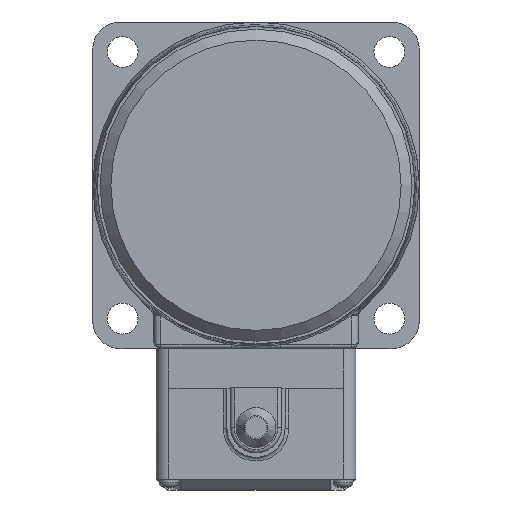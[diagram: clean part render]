
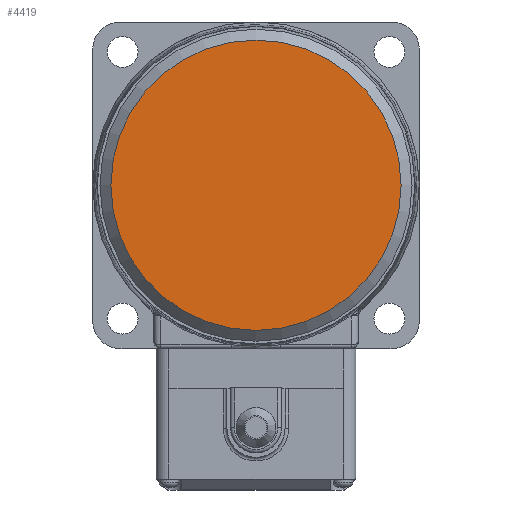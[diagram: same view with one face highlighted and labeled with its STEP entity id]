
A CAD part, left-side view. The second image highlights one B-rep face of the part: STEP entity #4419.
In plain terms, the highlighted planar face has unit normal (-1, 0, 0).
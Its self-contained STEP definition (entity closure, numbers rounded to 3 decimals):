
#193=PLANE('',#4840);
#1077=FACE_OUTER_BOUND('',#1350,.T.);
#1350=EDGE_LOOP('',(#3701));
#1604=CIRCLE('',#4841,40.);
#2052=VERTEX_POINT('',#7881);
#2624=EDGE_CURVE('',#2052,#2052,#1604,.T.);
#3701=ORIENTED_EDGE('',*,*,#2624,.F.);
#4419=ADVANCED_FACE('',(#1077),#193,.T.);
#4840=AXIS2_PLACEMENT_3D('',#7880,#5847,#5848);
#4841=AXIS2_PLACEMENT_3D('',#7882,#5849,#5850);
#5847=DIRECTION('center_axis',(-1.,0.,0.));
#5848=DIRECTION('ref_axis',(0.,0.,1.));
#5849=DIRECTION('center_axis',(1.,0.,0.));
#5850=DIRECTION('ref_axis',(0.,1.,0.));
#7880=CARTESIAN_POINT('Origin',(0.,20.,
0.));
#7881=CARTESIAN_POINT('',(0.,40.,0.));
#7882=CARTESIAN_POINT('Origin',(0.,0.,
0.));
